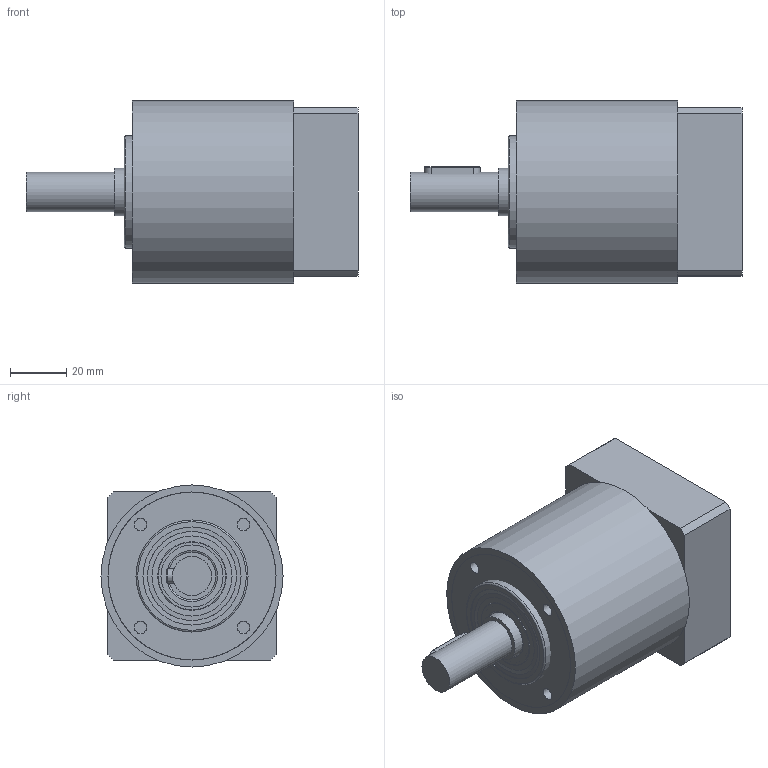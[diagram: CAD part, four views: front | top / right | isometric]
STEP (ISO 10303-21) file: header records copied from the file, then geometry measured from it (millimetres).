
FILE_DESCRIPTION(/* description */ (''),/* implementation_level */ '2;1');
FILE_NAME(/* name */ 'E000180659494MP291010142555_step203.stp',/* time_stamp */ '2010-10-29T14:27:27+02:00',/* author */ (''),/* organization */ (''),/* preprocessor_version */ 'ST-DEVELOPER v11',/* originating_system */ 'UGS - NX 5.0',/* authorisation */ '');
FILE_SCHEMA (('CONFIG_CONTROL_DESIGN'));
Length unit declared in the file: millimetre
Products named in the file (1): E000180659494MP291010142555_M
Bounding box: 118.55 x 65 x 65 mm (x, y, z)
Volume: 330600 mm3; surface area: 71759.7 mm2
Topology: 12 solids, 12 shells, 139 faces, 293 edges, 186 vertices
Faces by surface type: cylinder 53, plane 50, cone 26, torus 10
Full cylindrical faces by diameter (mm): 3.432 x9, 4.351 x4, 4.5 x1, 7.5 x1, 9.75 x1, 14 x2, 17 x3, 22.2 x2, 24.5 x2, 32.9 x2, 35 x4, 35.5 x1, 40 x1, 43 x1, 50 x2, 57.4 x1, 59.85 x1, 60 x2, 65 x1
Entity records: 3349 total; most frequent: CARTESIAN_POINT 604, DIRECTION 592, ORIENTED_EDGE 384, AXIS2_PLACEMENT_3D 263, EDGE_LOOP 236, FACE_BOUND 206, EDGE_CURVE 192, VERTEX_POINT 170
